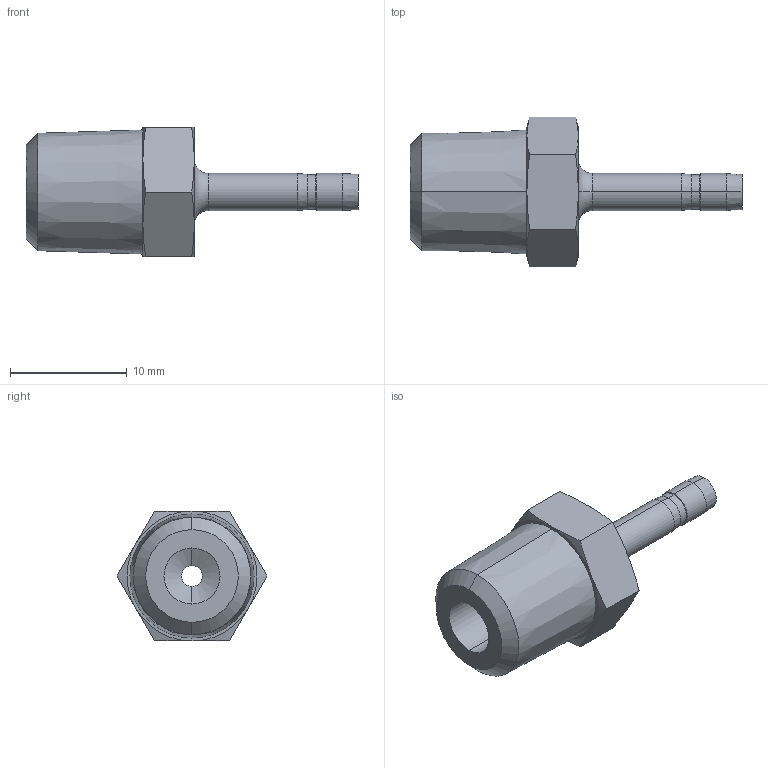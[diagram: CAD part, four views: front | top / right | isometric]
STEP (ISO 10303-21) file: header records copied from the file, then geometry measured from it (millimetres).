
FILE_DESCRIPTION (( 'STEP AP203' ), '1' );
FILE_NAME ('DHA02-02 SS.STEP', '2009-09-08T06:14:27', ( ' ' ), ( '' ), 'SwSTEP 2.0', 'SolidWorks 2008', '' );
FILE_SCHEMA (( 'CONFIG_CONTROL_DESIGN' ));
Length unit declared in the file: millimetre
Products named in the file (1): DHA02-02 SS
Bounding box: 28.4 x 12.83 x 11.11 mm (x, y, z)
Volume: 1152.3 mm3; surface area: 1063 mm2
Topology: 1 solids, 1 shells, 46 faces, 96 edges, 54 vertices
Faces by surface type: cone 24, cylinder 10, plane 10, torus 2
Entity records: 1317 total; most frequent: CARTESIAN_POINT 277, DIRECTION 210, ORIENTED_EDGE 192, EDGE_CURVE 96, AXIS2_PLACEMENT_3D 91, VERTEX_POINT 54, EDGE_LOOP 50, ADVANCED_FACE 46
